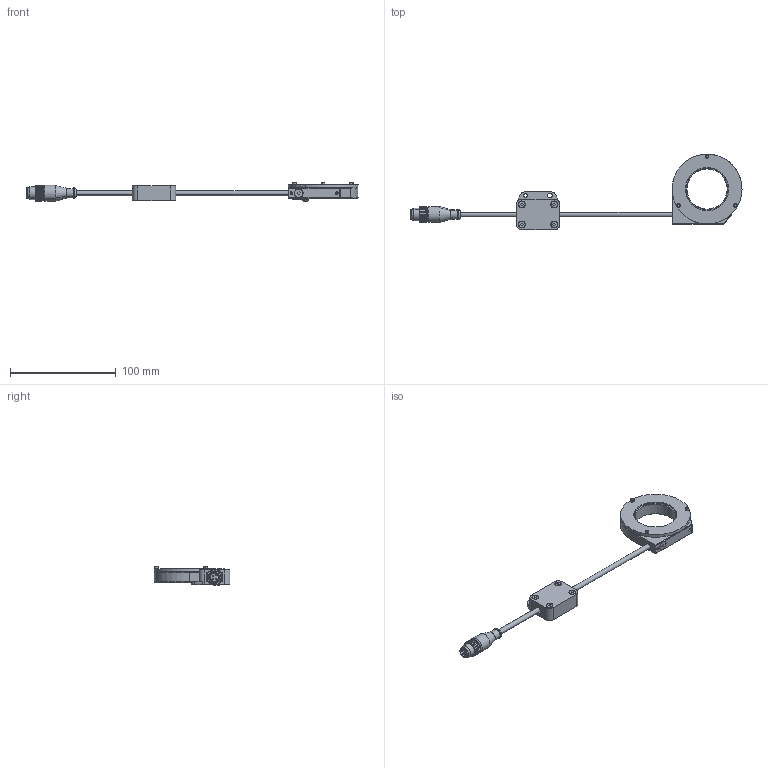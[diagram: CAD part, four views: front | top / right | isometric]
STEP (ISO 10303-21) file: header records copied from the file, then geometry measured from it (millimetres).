
FILE_DESCRIPTION (( 'STEP AP214' ), '1' );
FILE_NAME ('TRING.STEP', '2013-04-10T07:57:54', ( ' ' ), ( '' ), 'SwSTEP 2.0', 'SolidWorks 2009', '' );
FILE_SCHEMA (( 'AUTOMOTIVE_DESIGN' ));
Length unit declared in the file: millimetre
Products named in the file (1): TRING
Bounding box: 313.75 x 71.5 x 17.7 mm (x, y, z)
Volume: 41875.3 mm3; surface area: 30031.4 mm2
Topology: 2 solids, 13 shells, 549 faces, 1349 edges, 840 vertices
Faces by surface type: cylinder 230, plane 181, cone 90, torus 38, sphere 10
Entity records: 22623 total; most frequent: CARTESIAN_POINT 3529, DIRECTION 2853, ORIENTED_EDGE 2610, EDGE_CURVE 1305, AXIS2_PLACEMENT_3D 1108, VERTEX_POINT 832, LINE 637, VECTOR 637
